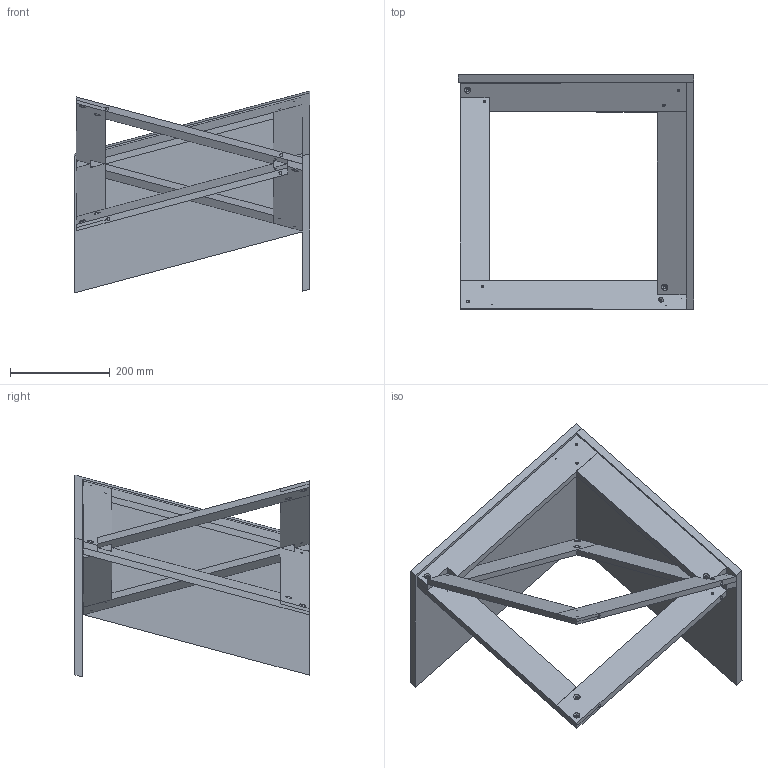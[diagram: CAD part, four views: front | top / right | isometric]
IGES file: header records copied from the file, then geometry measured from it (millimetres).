
Start section: SolidWorks IGES file using analytic representation for surfaces
Global section: file name: C:\Users\Matteo\Desktop\_Horm\Dror\_file tecnici per listino\QuaDror 01\QuaDror 01.IGS; native system: SolidWorks 2010; preprocessor: SolidWorks 2010; author: Matteo; date: 151117.150536; units: millimetre
Bounding box: 472.92 x 470.71 x 405.74 mm (x, y, z)
Surface area: 1077190.4 mm2 (no closed solid volume)
Topology: 0 solids, 0 shells, 223 faces, 2856 edges, 2830 vertices
Faces by surface type: revolution 130, bspline 93
